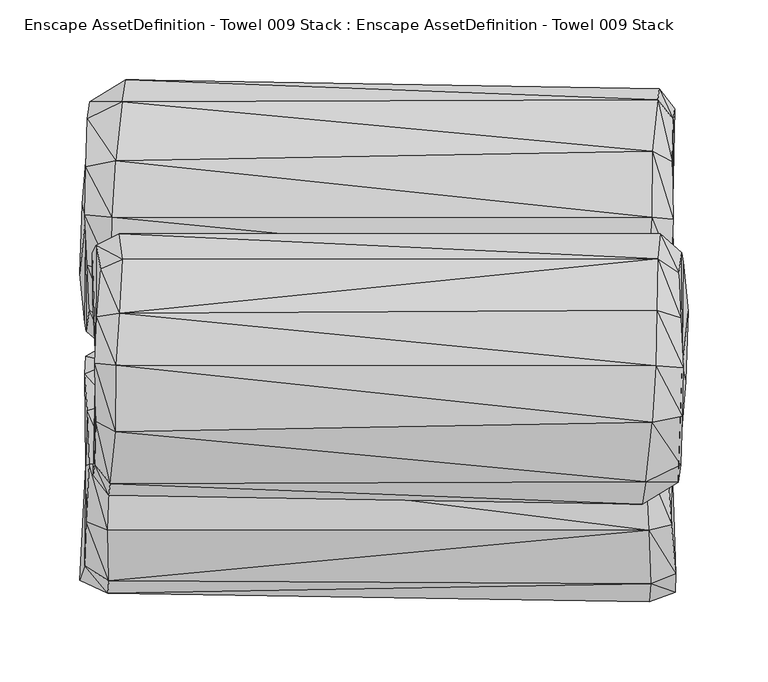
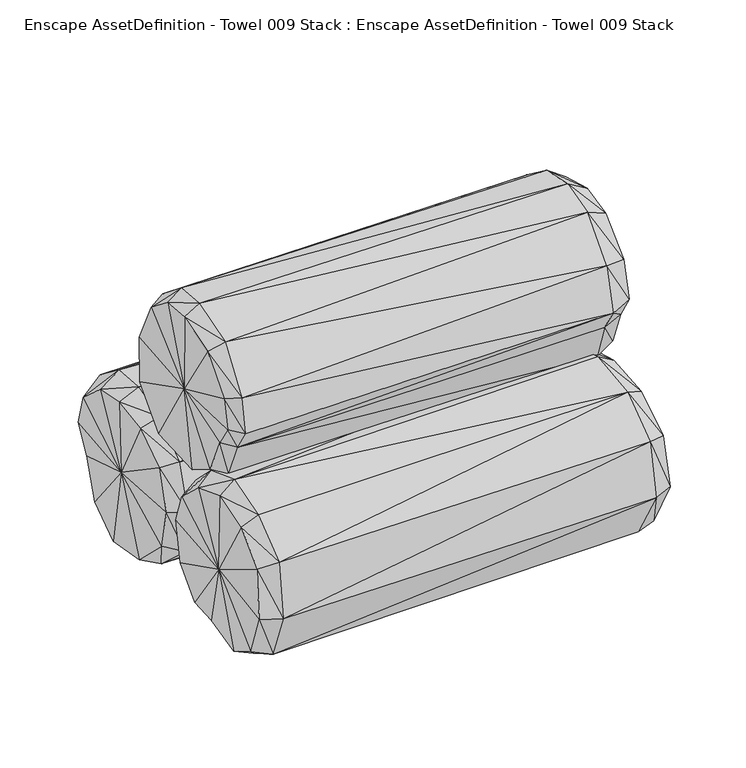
"""IFC4 building model written with IfcOpenShell, lengths in millimetres: geographic element geometry, Enscape AssetDefinition - Towel 009 Stack : Enscape AssetDefinition - Towel 009 Stack."""

import ifcopenshell
import ifcopenshell.guid

model = None  # the IFC model being written
_history = None  # IfcOwnerHistory: only IFC2X3 demands one
_inside = {}  # id of a spatial element -> (the spatial element, [elements in it])
_under = {}  # id of a project, library or spatial element -> (it, [spatial elements below it])
_declared = {}  # id of a project -> (the project, [libraries it declares])
_typed = {}  # id of a type object -> (the type object, [elements of that type])
_made_of = {}  # id of a material, layer set ... -> (it, [elements and type objects made of it])


def new_model(schema):
    """Start an empty IFC model of exactly this schema.

    Asked for "IFC4X3", IfcOpenShell would pick the latest addendum, in which some entities
    have other attributes; the version numbers below select the first issue.
    IFC2X3 requires an IfcOwnerHistory on every rooted entity: one is made here for all.
    """
    global model, _history
    if schema == "IFC4X3":
        model = ifcopenshell.file(schema_version=(4, 3, 0, 0))
    else:
        model = ifcopenshell.file(schema=schema)
    _inside.clear()
    _under.clear()
    _declared.clear()
    _typed.clear()
    _made_of.clear()
    _history = None
    if model.schema == "IFC2X3":
        org = make("IfcOrganization", Name="unknown")
        user = make(
            "IfcPersonAndOrganization",
            ThePerson=make("IfcPerson", FamilyName="unknown"),
            TheOrganization=org,
        )
        app = make(
            "IfcApplication",
            ApplicationDeveloper=org,
            Version="unknown",
            ApplicationFullName="unknown",
            ApplicationIdentifier="unknown",
        )
        _history = make(
            "IfcOwnerHistory",
            OwningUser=user,
            OwningApplication=app,
            ChangeAction="ADDED",
            CreationDate=0,
        )
    return model


def make(cls, **values):
    """One entity of the class cls with the attributes given. An attribute that is None is left unset."""
    return model.create_entity(
        cls, **{name: value for name, value in values.items() if value is not None}
    )


def rooted(cls, **values):
    """An entity with a GlobalId (a new one), such as an element, a storey or a relation."""
    return make(cls, GlobalId=ifcopenshell.guid.new(), OwnerHistory=_history, **values)


def si_unit(unit_type, name, prefix=None):
    """IfcSIUnit, for example si_unit("LENGTHUNIT", "METRE", prefix="MILLI")."""
    return make("IfcSIUnit", UnitType=unit_type, Prefix=prefix, Name=name)


def assignment(units):
    """IfcUnitAssignment: the units of a project."""
    return None if units is None else make("IfcUnitAssignment", Units=units)


def point(xyz):
    """IfcCartesianPoint."""
    return None if xyz is None else make("IfcCartesianPoint", Coordinates=xyz)


def direction(xyz):
    """IfcDirection."""
    return None if xyz is None else make("IfcDirection", DirectionRatios=xyz)


def frame(location, z_axis=None, x_axis=None):
    """IfcAxis2Placement3D, a coordinate frame: its origin and axes. An axis left out is left unset."""
    return make(
        "IfcAxis2Placement3D",
        Location=point(location),
        Axis=direction(z_axis),
        RefDirection=direction(x_axis),
    )


def origin():
    """The frame at (0, 0, 0) with its axes left unset."""
    return frame((0.0, 0.0, 0.0))


def place(relative_to, where):
    """IfcLocalPlacement: puts the frame where relative to a parent placement (None: the world)."""
    return make(
        "IfcLocalPlacement", PlacementRelTo=relative_to, RelativePlacement=where
    )


def context(
    kind, dimensions, precision=None, world=None, true_north=None, identifier=None
):
    """IfcGeometricRepresentationContext, for example the 3D "Model" context."""
    return make(
        "IfcGeometricRepresentationContext",
        ContextIdentifier=identifier,
        ContextType=kind,
        CoordinateSpaceDimension=dimensions,
        Precision=precision,
        WorldCoordinateSystem=world,
        TrueNorth=true_north,
    )


def project(units=None, contexts=None):
    """IfcProject with its units and contexts."""
    return rooted(
        "IfcProject",
        Name="project",
        RepresentationContexts=contexts,
        UnitsInContext=assignment(units),
    )


def spatial(cls, under=None, at=None, **own):
    """A site, building, storey or space (cls), placed at a placement, below another one or the project."""
    s = rooted(cls, ObjectPlacement=at, **own)
    if under is not None:
        _under.setdefault(under.id(), (under, []))[1].append(s)
    return s


def faces_of(points, faces, orient=None, outer=None):
    """IfcFace entities. A face is a list of loops; a loop is a list of indices into points, from 0.

    orient and outer hold one flag for each loop. By default every Orientation is true, the
    first loop of a face is its IfcFaceOuterBound and the others are IfcFaceBound.
    """
    made = []
    for i, loops in enumerate(faces):
        bounds = []
        for j, loop in enumerate(loops):
            is_outer = j == 0 if outer is None else outer[i][j]
            bounds.append(
                make(
                    "IfcFaceOuterBound" if is_outer else "IfcFaceBound",
                    Bound=make("IfcPolyLoop", Polygon=[points[k] for k in loop]),
                    Orientation=True if orient is None else orient[i][j],
                )
            )
        made.append(make("IfcFace", Bounds=bounds))
    return made


def faceted_brep(points, faces, orient=None, outer=None, voids=None):
    """IfcFacetedBrep: a solid bounded by flat faces; with voids (closed shells), ...WithVoids."""
    shared = [point(p) for p in points]
    hull = make("IfcClosedShell", CfsFaces=faces_of(shared, faces, orient, outer))
    if voids is None:
        return make("IfcFacetedBrep", Outer=hull)
    return make(
        "IfcFacetedBrepWithVoids",
        Outer=hull,
        Voids=[
            make(cls, CfsFaces=faces_of(shared, fs, o, b)) for cls, fs, o, b in voids
        ],
    )


def shape(context_of_items, identifier, shape_type, items):
    """IfcShapeRepresentation: the items that make up one representation, for example the "Body"."""
    return make(
        "IfcShapeRepresentation",
        ContextOfItems=context_of_items,
        RepresentationIdentifier=identifier,
        RepresentationType=shape_type,
        Items=items,
    )


def source(mapping_origin, context_of_items, identifier, shape_type, items):
    """IfcRepresentationMap: a shape defined once, which mapped items show again and again."""
    return make(
        "IfcRepresentationMap",
        MappingOrigin=mapping_origin,
        MappedRepresentation=shape(context_of_items, identifier, shape_type, items),
    )


def transform(
    local_origin,
    x_axis=None,
    y_axis=None,
    z_axis=None,
    scale=None,
    scale2=None,
    scale3=None,
    uniform=True,
):
    """IfcCartesianTransformationOperator3D, or its non-uniform kind. x_axis, y_axis, z_axis: its Axis1, 2, 3."""
    if uniform:
        return make(
            "IfcCartesianTransformationOperator3D",
            Axis1=direction(x_axis),
            Axis2=direction(y_axis),
            LocalOrigin=point(local_origin),
            Scale=scale,
            Axis3=direction(z_axis),
        )
    return make(
        "IfcCartesianTransformationOperator3DnonUniform",
        Axis1=direction(x_axis),
        Axis2=direction(y_axis),
        LocalOrigin=point(local_origin),
        Scale=scale,
        Axis3=direction(z_axis),
        Scale2=scale2,
        Scale3=scale3,
    )


def mapped(mapping_source, mapping_target):
    """IfcMappedItem: shows the shape of a source again, moved by a transform."""
    return make(
        "IfcMappedItem", MappingSource=mapping_source, MappingTarget=mapping_target
    )


def made_of(thing, what):
    """Note that an element or type object is made of a material, layer set ...; save() writes the relation."""
    if what is not None:
        _made_of.setdefault(what.id(), (what, []))[1].append(thing)
    return thing


def element(
    cls,
    number,
    at=None,
    inside=None,
    cuts=None,
    type_object=None,
    material=None,
    context=None,
    identifier="Body",
    shape_type=None,
    held_by="IfcProductDefinitionShape",
    body=None,
    shapes=None,
    **own,
):
    """One element of the class cls, such as IfcWall. Its Tag is "e" and its number.

    at: its placement. inside: the storey or other place that contains it. cuts: it is an
    opening in that element (IfcRelVoidsElement). A single representation is given by context,
    identifier, shape_type and body (its items); several are given by shapes. held_by: the class
    of the entity that holds the representations. save() writes the other relations.
    """
    e = rooted(cls, Tag="e%d" % number, ObjectPlacement=at, **own)
    if body is not None:
        shapes = [shape(context, identifier, shape_type, body)]
    if shapes is not None:
        e.Representation = make(held_by, Representations=shapes)
    if inside is not None:
        _inside.setdefault(inside.id(), (inside, []))[1].append(e)
    if cuts is not None:
        rooted(
            "IfcRelVoidsElement", RelatingBuildingElement=cuts, RelatedOpeningElement=e
        )
    if type_object is not None:
        _typed.setdefault(type_object.id(), (type_object, []))[1].append(e)
    return made_of(e, material)


def aggregate(whole, parts):
    """IfcRelAggregates: a whole, such as a stair, and the parts it consists of."""
    return rooted("IfcRelAggregates", RelatingObject=whole, RelatedObjects=parts)


def save(model, path):
    """Write the relations noted so far, then the file.

    IfcRelAggregates (storeys below a building ...), IfcRelContainedInSpatialStructure (elements
    in a storey), IfcRelDefinesByType, IfcRelAssociatesMaterial and IfcRelDeclares: one each for
    every whole, place, type object, material and project.
    """
    for whole, parts in _under.values():
        aggregate(whole, parts)
    for where, things in _inside.values():
        rooted(
            "IfcRelContainedInSpatialStructure",
            RelatedElements=things,
            RelatingStructure=where,
        )
    for kind, things in _typed.values():
        rooted("IfcRelDefinesByType", RelatedObjects=things, RelatingType=kind)
    for what, things in _made_of.values():
        rooted("IfcRelAssociatesMaterial", RelatedObjects=things, RelatingMaterial=what)
    for by, libraries in _declared.values():
        rooted("IfcRelDeclares", RelatingContext=by, RelatedDefinitions=libraries)
    model.write(path)


def enscape_assetdefinition_towel_009_stack_enscape_e0672893(model_context):
    return source(origin(), model_context, "Body", "Brep", [
        faceted_brep([(-165.5288268, 39.7356937, 147.2782296), (171.3862447, 4.0554837, 154.9768778), (171.7628872, 45.590365, 142.2372137), (-167.6434135, 4.2566123, 153.2014836), (169.1857167, -28.5090626, 149.8828524), (184.7146581, 2.8834525, 146.1071168), (183.4594442, -26.554459, 142.2399603), (-168.4305641, -30.6135983, 145.20752), (-184.3965047, 35.9535619, 137.1404417), (-184.8161453, 5.5730902, 143.7072811), (-168.8437776, -63.2010058, 121.4405238), (-183.3424249, -25.9090197, 136.4319128), (-184.3233762, 3.9037229, 75.7733603), (-183.2994542, 66.0743981, 111.030293), (-161.447737, 76.7698643, 118.5662115), (-181.849492, 76.7753506, 79.2921987), (175.2744265, 77.937324, 108.645083), (-159.1951058, 90.6038528, 81.4003926), (-182.3614599, 62.2072416, 55.8250669), (176.0314056, 84.7638141, 77.9034996), (173.1826779, 66.337688, 52.892245), (-163.5632575, 69.6755111, 54.3358007), (-183.7784903, 47.0000894, 20.5617398), (-165.8460464, 52.6527235, 15.2492028), (-186.6409235, 12.406891, 4.2675829), (169.6967507, 45.398377, 13.6200621), (166.7712416, 11.5356392, -2.7636897), (-169.7689728, 12.2469019, -3.7016802), (-188.1841331, -31.464738, 13.1684372), (169.9298829, -40.8336712, 2.8176286), (-170.5085796, -35.9846467, 6.0740832), (183.8040887, 40.3290264, 20.008638), (183.1952342, 10.2548157, 1.6629676), (184.2694328, 56.8462492, 55.7309029), (184.3827991, 0.4881939, 74.8207471), (185.9900047, -38.4119038, 8.5324234), (170.762737, -73.9165841, 38.1330647), (186.3044914, -67.8114152, 41.6948704), (-169.8402885, -73.4421074, 40.0684728), (169.4297941, -79.4887597, 81.7679163), (183.8571257, -72.155795, 81.3318304), (-170.5817081, -79.2428353, 81.8255058), (167.1369388, -62.8846789, 123.285421), (-185.0492637, -62.2867765, 44.0526451), (-184.0618991, -67.4237863, 80.1497449), (-182.1731249, -54.3723718, 114.9596121), (181.2223313, -56.9769844, 118.3495453), (184.2904581, 39.0354012, 133.8574752), (184.9313381, 65.5944282, 103.656184), (185.7477401, 72.2746408, 77.8257911)], [[[0, 1, 2]], [[1, 0, 3]], [[3, 4, 1]], [[5, 2, 1]], [[6, 1, 4]], [[1, 6, 5]], [[4, 3, 7]], [[8, 3, 0]], [[3, 8, 9]], [[9, 7, 3]], [[10, 4, 7]], [[11, 10, 7]], [[7, 9, 11]], [[12, 9, 8]], [[12, 11, 9]], [[0, 13, 8]], [[12, 8, 13]], [[13, 0, 14]], [[14, 15, 13]], [[12, 13, 15]], [[14, 2, 16]], [[2, 14, 0]], [[16, 17, 14]], [[15, 14, 17]], [[17, 18, 15]], [[12, 15, 18]], [[17, 16, 19]], [[17, 20, 21]], [[20, 17, 19]], [[18, 17, 21]], [[21, 22, 18]], [[12, 18, 22]], [[20, 23, 21]], [[22, 21, 23]], [[23, 24, 22]], [[12, 22, 24]], [[23, 20, 25]], [[23, 26, 27]], [[26, 23, 25]], [[24, 23, 27]], [[27, 28, 24]], [[12, 24, 28]], [[27, 29, 30]], [[29, 27, 26]], [[28, 27, 30]], [[31, 26, 25]], [[26, 31, 32]], [[32, 29, 26]], [[33, 25, 20]], [[25, 33, 31]], [[34, 31, 33]], [[34, 32, 31]], [[29, 32, 35]], [[34, 35, 32]], [[36, 30, 29]], [[35, 36, 29]], [[36, 35, 37]], [[34, 37, 35]], [[30, 36, 38]], [[39, 38, 36]], [[37, 39, 36]], [[39, 37, 40]], [[34, 40, 37]], [[38, 39, 41]], [[10, 39, 42]], [[39, 10, 41]], [[40, 42, 39]], [[43, 30, 38]], [[44, 38, 41]], [[38, 44, 43]], [[45, 41, 10]], [[41, 45, 44]], [[4, 10, 42]], [[10, 11, 45]], [[42, 40, 46]], [[46, 4, 42]], [[4, 46, 6]], [[34, 46, 40]], [[34, 6, 46]], [[34, 5, 6]], [[34, 47, 5]], [[34, 48, 47]], [[34, 49, 48]], [[34, 33, 49]], [[2, 5, 47]], [[47, 16, 2]], [[16, 47, 48]], [[48, 19, 16]], [[19, 48, 49]], [[49, 20, 19]], [[20, 49, 33]], [[12, 44, 45]], [[12, 45, 11]], [[12, 43, 44]], [[12, 28, 43]], [[30, 43, 28]]]),
        faceted_brep([(-165.5288268, -72.611993, 84.9100848), (171.3862447, -85.651525, 119.0032107), (171.7628872, -73.6368282, 77.2534871), (-167.6434135, -87.0274249, 117.8659224), (169.1857167, -107.7043557, 143.4997611), (184.7146581, -93.7213499, 115.1415406), (183.4594442, -113.038833, 137.6889669), (-168.4305641, -112.7691366, 142.7089575), (-184.3965047, -83.170321, 82.5413407), (-184.8161453, -94.2616559, 111.5769986), (-168.8437776, -150.4770949, 157.0256557), (-183.3424249, -117.551422, 133.9754008), (-184.3233762, -152.0797137, 75.8711876), (-183.2994542, -88.5907397, 43.049745), (-161.447737, -76.4361719, 38.2062034), (-181.849492, -109.3316665, 16.7512682), (175.2744265, -84.1092286, 31.8093997), (-159.1951058, -100.0130203, 6.3190945), (-182.3614599, -136.9457071, 16.1369119), (176.0314056, -106.1309815, 9.3012833), (173.1826779, -137.1468413, 11.0757857), (-163.5632575, -134.1143655, 9.0681563), (-183.7784903, -174.7908036, 9.6157752), (-165.8460464, -176.1538906, 1.979288), (-186.6409235, -207.3343134, 29.6938929), (169.6967507, -181.4801418, 7.1665773), (166.7712416, -213.7000324, 26.5837121), (-169.7689728, -214.0968075, 25.4756787), (-188.1841331, -223.8396468, 71.3055685), (169.9298829, -237.6270323, 73.4997038), (-170.5085796, -232.2513971, 71.2159741), (183.8040887, -178.8974781, 14.9017997), (183.1952342, -210.6913285, 30.074209), (184.2694328, -139.9535046, 20.5763689), (184.3827991, -154.742853, 78.2125136), (185.9900047, -231.5172835, 74.5931013), (170.762737, -226.1133308, 120.500703), (186.3044914, -219.7960619, 117.3329292), (-169.8402885, -224.2336891, 121.160768), (169.4297941, -192.6062144, 149.0006142), (183.8571257, -188.9657905, 142.6193631), (-170.5817081, -192.4233727, 148.8259985), (167.1369388, -148.7592697, 157.7689155), (-185.0492637, -214.8034962, 113.9923663), (-184.0618991, -187.3713841, 138.0107733), (-182.1731249, -151.0841367, 146.0897445), (181.2223313, -149.6670925, 150.1241969), (184.2904581, -84.2372206, 78.1667963), (184.9313381, -95.0296009, 39.4239468), (185.7477401, -113.018721, 19.7206578)], [[[0, 1, 2]], [[1, 0, 3]], [[3, 4, 1]], [[5, 2, 1]], [[6, 1, 4]], [[1, 6, 5]], [[4, 3, 7]], [[8, 3, 0]], [[3, 8, 9]], [[9, 7, 3]], [[10, 4, 7]], [[11, 10, 7]], [[7, 9, 11]], [[12, 9, 8]], [[12, 11, 9]], [[0, 13, 8]], [[12, 8, 13]], [[13, 0, 14]], [[14, 15, 13]], [[12, 13, 15]], [[14, 2, 16]], [[2, 14, 0]], [[16, 17, 14]], [[15, 14, 17]], [[17, 18, 15]], [[12, 15, 18]], [[17, 16, 19]], [[17, 20, 21]], [[20, 17, 19]], [[18, 17, 21]], [[21, 22, 18]], [[12, 18, 22]], [[20, 23, 21]], [[22, 21, 23]], [[23, 24, 22]], [[12, 22, 24]], [[23, 20, 25]], [[23, 26, 27]], [[26, 23, 25]], [[24, 23, 27]], [[27, 28, 24]], [[12, 24, 28]], [[27, 29, 30]], [[29, 27, 26]], [[28, 27, 30]], [[31, 26, 25]], [[26, 31, 32]], [[32, 29, 26]], [[33, 25, 20]], [[25, 33, 31]], [[34, 31, 33]], [[34, 32, 31]], [[29, 32, 35]], [[34, 35, 32]], [[36, 30, 29]], [[35, 36, 29]], [[36, 35, 37]], [[34, 37, 35]], [[30, 36, 38]], [[39, 38, 36]], [[37, 39, 36]], [[39, 37, 40]], [[34, 40, 37]], [[38, 39, 41]], [[10, 39, 42]], [[39, 10, 41]], [[40, 42, 39]], [[43, 30, 38]], [[44, 38, 41]], [[38, 44, 43]], [[45, 41, 10]], [[41, 45, 44]], [[4, 10, 42]], [[10, 11, 45]], [[42, 40, 46]], [[46, 4, 42]], [[4, 46, 6]], [[34, 46, 40]], [[34, 6, 46]], [[34, 5, 6]], [[34, 47, 5]], [[34, 48, 47]], [[34, 49, 48]], [[34, 33, 49]], [[2, 5, 47]], [[47, 16, 2]], [[16, 47, 48]], [[48, 19, 16]], [[19, 48, 49]], [[49, 20, 19]], [[20, 49, 33]], [[12, 44, 45]], [[12, 45, 11]], [[12, 43, 44]], [[12, 28, 43]], [[30, 43, 28]]]),
        faceted_brep([(171.7510081, -124.6402956, 282.7109123), (-165.1649698, -88.8741485, 290.0), (-165.541626, -130.5525632, 277.7375454), (173.8646883, -89.0953878, 288.2273112), (-162.963508, -56.3699426, 284.5329302), (-178.4924769, -87.8036028, 281.1174123), (-177.2372492, -58.4123072, 276.9138375), (174.6518389, -54.3193451, 279.8338396), (190.6177796, -120.9751934, 272.53014), (191.0383266, -90.520658, 278.7486545), (175.0659726, -22.0062088, 255.6947741), (189.5646062, -59.1244891, 271.1131096), (190.5455575, -89.6311276, 210.8001217), (189.5216355, -151.3931302, 246.7673892), (167.669932, -162.0008491, 254.4258134), (188.071687, -162.4570471, 215.1545678), (-169.0531516, -163.2825815, 244.518411), (165.4172871, -176.2608573, 217.4209183), (188.5827347, -148.1586275, 191.521043), (-169.8101307, -170.4610495, 213.8572758), (-166.9604967, -152.321992, 188.6366781), (169.7854387, -155.6433562, 190.1177182), (190.000699, -133.35648, 156.0858348), (172.0673213, -139.0703601, 150.8382053), (192.8631048, -98.9525204, 139.3967259), (-163.4745695, -131.8352158, 149.1267797), (-160.5490604, -98.1617168, 132.3563161), (175.9902476, -98.8839581, 131.4265616), (194.4063144, -54.9821568, 147.7929441), (-163.7076879, -45.7329826, 137.336989), (176.7307746, -50.5445262, 140.6473942), (-177.5819074, -126.6927265, 155.4568477), (-176.9730392, -96.830614, 136.7674385), (-178.0481717, -142.7994583, 191.3656262), (-178.1606042, -86.2256486, 209.8091041), (-179.7678097, -48.0880177, 143.0783077), (-164.5405558, -12.2469019, 172.2702819), (-180.0823102, -18.310015, 175.9015734), (176.0624697, -12.6994409, 174.2102529), (-163.2076266, -6.1746477, 215.8374846), (-177.6349444, -13.5130988, 215.4855067), (176.8039168, -6.4196585, 215.8978138), (-160.9147438, -22.3015019, 257.5433242), (191.2714587, -23.8081387, 178.3224206), (190.2831739, -18.257905, 214.358271), (188.3953199, -30.9088897, 249.3153358), (-175.0001501, -28.2649663, 252.6750975), (-178.0682769, -124.0945032, 269.2828245), (-178.7091569, -150.9972889, 239.3878008), (-179.5264652, -157.9727825, 213.6360365)], [[[0, 1, 2]], [[1, 0, 3]], [[3, 4, 1]], [[5, 2, 1]], [[6, 1, 4]], [[1, 6, 5]], [[4, 3, 7]], [[8, 3, 0]], [[3, 8, 9]], [[9, 7, 3]], [[10, 4, 7]], [[11, 10, 7]], [[7, 9, 11]], [[12, 9, 8]], [[12, 11, 9]], [[0, 13, 8]], [[12, 8, 13]], [[13, 0, 14]], [[14, 15, 13]], [[12, 13, 15]], [[14, 2, 16]], [[2, 14, 0]], [[16, 17, 14]], [[15, 14, 17]], [[17, 18, 15]], [[12, 15, 18]], [[17, 16, 19]], [[17, 20, 21]], [[20, 17, 19]], [[18, 17, 21]], [[21, 22, 18]], [[12, 18, 22]], [[20, 23, 21]], [[22, 21, 23]], [[23, 24, 22]], [[12, 22, 24]], [[23, 20, 25]], [[23, 26, 27]], [[26, 23, 25]], [[24, 23, 27]], [[27, 28, 24]], [[12, 24, 28]], [[27, 29, 30]], [[29, 27, 26]], [[28, 27, 30]], [[31, 26, 25]], [[26, 31, 32]], [[32, 29, 26]], [[33, 25, 20]], [[25, 33, 31]], [[34, 31, 33]], [[34, 32, 31]], [[29, 32, 35]], [[34, 35, 32]], [[36, 30, 29]], [[35, 36, 29]], [[36, 35, 37]], [[34, 37, 35]], [[30, 36, 38]], [[39, 38, 36]], [[37, 39, 36]], [[39, 37, 40]], [[34, 40, 37]], [[38, 39, 41]], [[10, 39, 42]], [[39, 10, 41]], [[40, 42, 39]], [[43, 30, 38]], [[44, 38, 41]], [[38, 44, 43]], [[45, 41, 10]], [[41, 45, 44]], [[4, 10, 42]], [[10, 11, 45]], [[42, 40, 46]], [[46, 4, 42]], [[4, 46, 6]], [[34, 46, 40]], [[34, 6, 46]], [[34, 5, 6]], [[34, 47, 5]], [[34, 48, 47]], [[34, 49, 48]], [[34, 33, 49]], [[2, 5, 47]], [[47, 16, 2]], [[16, 47, 48]], [[48, 19, 16]], [[19, 48, 49]], [[49, 20, 19]], [[20, 49, 33]], [[12, 44, 45]], [[12, 45, 11]], [[12, 43, 44]], [[12, 28, 43]], [[30, 43, 28]]]),
    ])


if __name__ == "__main__":
    model = new_model("IFC4")
    model_context = context("Model", 3, world=origin())
    ifc_project = project(units=[si_unit("LENGTHUNIT", "METRE", prefix="MILLI")], contexts=[model_context])
    site = spatial("IfcSite", under=ifc_project)
    building = spatial("IfcBuilding", under=site)
    placement = place(None, origin())
    enscape_assetdefinition_towel_009_stack_enscape_shape = enscape_assetdefinition_towel_009_stack_enscape_e0672893(model_context)
    element("IfcGeographicElement", 1, ObjectType="Enscape AssetDefinition - Towel 009 Stack : Enscape AssetDefinition - Towel 009 Stack", at=placement, inside=building, context=model_context, shape_type="MappedRepresentation", body=[
        mapped(enscape_assetdefinition_towel_009_stack_enscape_shape, transform((0.0, 0.0, 0.0), x_axis=(1.0, 0.0, 0.0), y_axis=(0.0, 1.0, 0.0), z_axis=(0.0, 0.0, 1.0))),
    ])
    save(model, "model.ifc")
